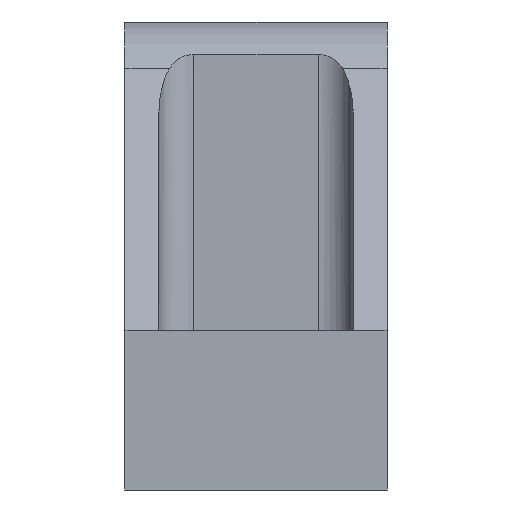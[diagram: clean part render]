
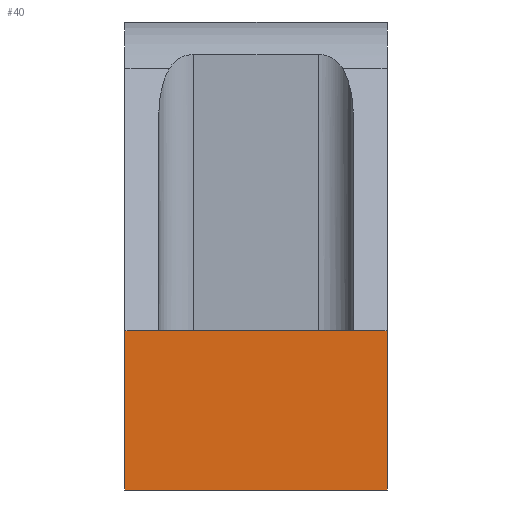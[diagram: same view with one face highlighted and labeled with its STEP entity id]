
A CAD part, left-side view. The second image highlights one B-rep face of the part: STEP entity #40.
In plain terms, the highlighted planar face has unit normal (-1, 0, 0).
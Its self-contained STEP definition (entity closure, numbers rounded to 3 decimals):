
#9 = VECTOR ( 'NONE', #978, 1000. ) ;
#40 = ADVANCED_FACE ( 'NONE', ( #1341 ), #1119, .T. ) ;
#70 = VERTEX_POINT ( 'NONE', #1240 ) ;
#72 = DIRECTION ( 'NONE',  ( 0., 0., -1. ) ) ;
#96 = ORIENTED_EDGE ( 'NONE', *, *, #842, .F. ) ;
#125 = EDGE_CURVE ( 'NONE', #642, #564, #1229, .T. ) ;
#205 = CARTESIAN_POINT ( 'NONE',  ( -8.5, -14., 17. ) ) ;
#214 = ORIENTED_EDGE ( 'NONE', *, *, #816, .T. ) ;
#226 = CARTESIAN_POINT ( 'NONE',  ( -8.5, 14., 17. ) ) ;
#289 = DIRECTION ( 'NONE',  ( 0., -1., 0. ) ) ;
#360 = VECTOR ( 'NONE', #497, 1000. ) ;
#379 = CARTESIAN_POINT ( 'NONE',  ( -8.5, -14., 0. ) ) ;
#405 = VECTOR ( 'NONE', #72, 1000. ) ;
#452 = EDGE_CURVE ( 'NONE', #995, #594, #513, .T. ) ;
#491 = LINE ( 'NONE', #1215, #789 ) ;
#497 = DIRECTION ( 'NONE',  ( 0., 1., 0. ) ) ;
#504 = DIRECTION ( 'NONE',  ( 0., 0., -1. ) ) ;
#513 = LINE ( 'NONE', #205, #1252 ) ;
#546 = CARTESIAN_POINT ( 'NONE',  ( -8.5, 10.375, 17. ) ) ;
#564 = VERTEX_POINT ( 'NONE', #226 ) ;
#576 = LINE ( 'NONE', #379, #1102 ) ;
#594 = VERTEX_POINT ( 'NONE', #1157 ) ;
#596 = CARTESIAN_POINT ( 'NONE',  ( -8.5, 14., 0. ) ) ;
#642 = VERTEX_POINT ( 'NONE', #546 ) ;
#654 = ORIENTED_EDGE ( 'NONE', *, *, #452, .T. ) ;
#763 = LINE ( 'NONE', #1072, #9 ) ;
#789 = VECTOR ( 'NONE', #289, 1000. ) ;
#806 = EDGE_CURVE ( 'NONE', #1200, #70, #491, .T. ) ;
#816 = EDGE_CURVE ( 'NONE', #564, #1200, #1120, .T. ) ;
#842 = EDGE_CURVE ( 'NONE', #995, #70, #576, .T. ) ;
#888 = ORIENTED_EDGE ( 'NONE', *, *, #806, .T. ) ;
#916 = ORIENTED_EDGE ( 'NONE', *, *, #1066, .T. ) ;
#954 = CARTESIAN_POINT ( 'NONE',  ( -8.5, -14., 17. ) ) ;
#973 = CARTESIAN_POINT ( 'NONE',  ( -8.5, 14., 0. ) ) ;
#978 = DIRECTION ( 'NONE',  ( 0., 1., 0. ) ) ;
#986 = ORIENTED_EDGE ( 'NONE', *, *, #125, .T. ) ;
#995 = VERTEX_POINT ( 'NONE', #954 ) ;
#1012 = AXIS2_PLACEMENT_3D ( 'NONE', #1013, #1133, #1139 ) ;
#1013 = CARTESIAN_POINT ( 'NONE',  ( -8.5, -14., 17. ) ) ;
#1066 = EDGE_CURVE ( 'NONE', #594, #642, #763, .T. ) ;
#1072 = CARTESIAN_POINT ( 'NONE',  ( -8.5, -14., 17. ) ) ;
#1102 = VECTOR ( 'NONE', #504, 1000. ) ;
#1118 = CARTESIAN_POINT ( 'NONE',  ( -8.5, -14., 17. ) ) ;
#1119 = PLANE ( 'NONE',  #1012 ) ;
#1120 = LINE ( 'NONE', #596, #405 ) ;
#1123 = DIRECTION ( 'NONE',  ( 0., 1., 0. ) ) ;
#1133 = DIRECTION ( 'NONE',  ( -1., 0., 0. ) ) ;
#1139 = DIRECTION ( 'NONE',  ( 0., -1., 0. ) ) ;
#1157 = CARTESIAN_POINT ( 'NONE',  ( -8.5, -10.375, 17. ) ) ;
#1183 = EDGE_LOOP ( 'NONE', ( #916, #986, #214, #888, #96, #654 ) ) ;
#1200 = VERTEX_POINT ( 'NONE', #973 ) ;
#1215 = CARTESIAN_POINT ( 'NONE',  ( -8.5, -14., 0. ) ) ;
#1229 = LINE ( 'NONE', #1118, #360 ) ;
#1240 = CARTESIAN_POINT ( 'NONE',  ( -8.5, -14., 0. ) ) ;
#1252 = VECTOR ( 'NONE', #1123, 1000. ) ;
#1341 = FACE_OUTER_BOUND ( 'NONE', #1183, .T. ) ;
